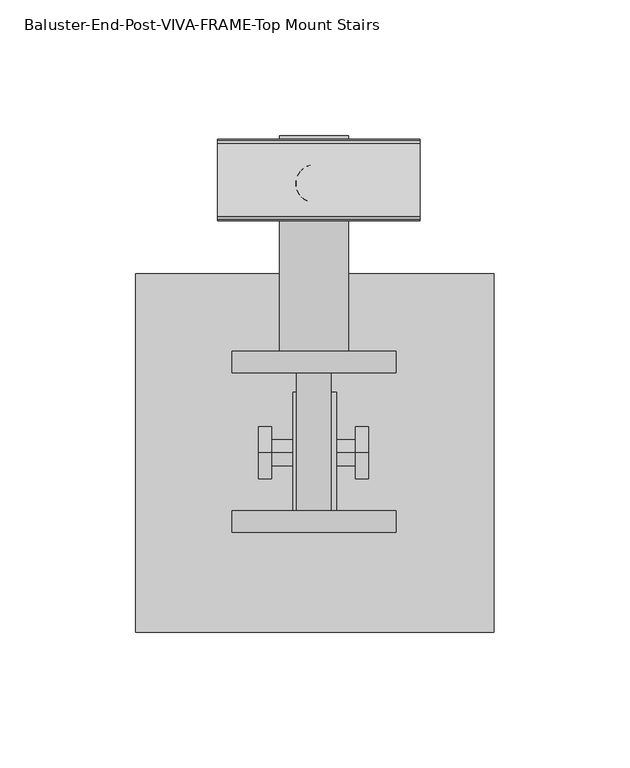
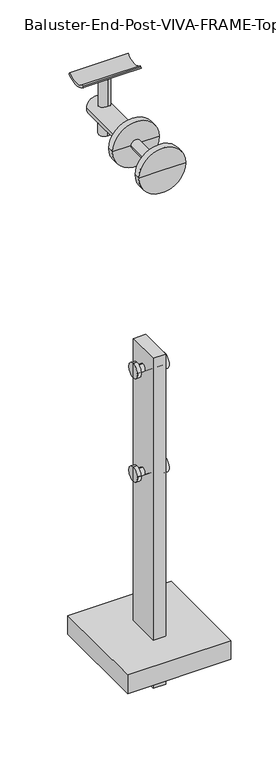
"""IFC4 building model written with IfcOpenShell, lengths in millimetres: proxy geometry, Baluster-End-Post-VIVA-FRAME-Top Mount Stairs : ANCHORED TO CONCRETE_TOP MOUNT FRAME_STAIR."""

from ifc_helpers import new_model, si_unit, point, frame, frame_2d, origin, place, context, project, spatial, polyline, circle_curve, trimmed, segment, composite_curve, outline, extrude, source, transform, mapped, element, save
from ifc_brep_helpers import plane_surface, cylinder_surface, advanced_brep


def baluster_end_post_viva_frame_top_mount_stairs_2918d103(model_context):
    return source(origin(), model_context, "Body", "SolidModel", [
        advanced_brep(
        [(-30.4813346, -121.9403, -73.6790445), (-6.6688346, -121.9403, -73.6790445), (6.0311654, -121.9403, -73.6790445), (29.8436654, -121.9403, -73.6790445), (-30.4813346, -129.8778, -73.6790445), (29.8436654, -129.8778, -73.6790445), (-30.4813346, -63.2028, -73.6790445), (-13.0188346, -63.2028, -73.6790445), (12.3811654, -63.2028, -73.6790445), (29.8436654, -63.2028, -73.6790445), (-30.4813346, -71.1403, -73.6790445), (29.8436654, -71.1403, -73.6790445), (-0.3188346, -129.8778, -73.6790445), (-13.0188346, 16.1722, -73.6790445), (-0.3188346, 16.1722, -73.6790445), (12.3811654, 16.1722, -73.6790445), (-6.6688346, -71.1403, -73.6790445), (6.0311654, -71.1403, -73.6790445)],
        [
            (0, 1),
            (1, 2, circle_curve(frame((-0.3188346, -121.9403, -73.6790445), z_axis=(0.0, -1.0, 0.0), x_axis=(1.0, 0.0, 0.0)), 6.35)),
            (2, 3),
            (3, 0, circle_curve(frame((-0.3188346, -121.9403, -73.6790445), z_axis=(0.0, 1.0, 0.0), x_axis=(1.0, 0.0, 0.0)), 30.1625)),
            (4, 0),
            (3, 5),
            (5, 4, circle_curve(frame((-0.3188346, -129.8778, -73.6790445), z_axis=(0.0, 1.0, 0.0), x_axis=(1.0, 0.0, 0.0)), 30.1625)),
            (6, 7),
            (7, 8, circle_curve(frame((-0.3188346, -63.2028, -73.6790445), z_axis=(0.0, -1.0, 0.0), x_axis=(1.0, 0.0, 0.0)), 12.7)),
            (8, 9),
            (9, 6, circle_curve(frame((-0.3188346, -63.2028, -73.6790445), z_axis=(0.0, 1.0, 0.0), x_axis=(1.0, 0.0, 0.0)), 30.1625)),
            (10, 6),
            (9, 11),
            (11, 10, circle_curve(frame((-0.3188346, -71.1403, -73.6790445), z_axis=(0.0, 1.0, 0.0), x_axis=(1.0, 0.0, 0.0)), 30.1625)),
            (3, 0, circle_curve(frame((-0.3188346, -121.9403, -73.6790445), z_axis=(0.0, -1.0, 0.0), x_axis=(1.0, 0.0, 0.0)), 30.1625)),
            (4, 5, circle_curve(frame((-0.3188346, -129.8778, -73.6790445), z_axis=(0.0, 1.0, 0.0), x_axis=(1.0, 0.0, 0.0)), 30.1625)),
            (12, 4),
            (5, 12),
            (13, 14),
            (14, 15),
            (15, 13, circle_curve(frame((-0.3188346, 16.1722, -73.6790445), z_axis=(0.0, 1.0, 0.0), x_axis=(1.0, 0.0, 0.0)), 12.7)),
            (13, 15, circle_curve(frame((-0.3188346, 16.1722, -73.6790445), z_axis=(0.0, 1.0, 0.0), x_axis=(1.0, 0.0, 0.0)), 12.7)),
            (7, 13),
            (15, 8),
            (7, 8, circle_curve(frame((-0.3188346, -63.2028, -73.6790445), z_axis=(0.0, 1.0, 0.0), x_axis=(1.0, 0.0, 0.0)), 12.7)),
            (6, 9, circle_curve(frame((-0.3188346, -63.2028, -73.6790445), z_axis=(0.0, 1.0, 0.0), x_axis=(1.0, 0.0, 0.0)), 30.1625)),
            (10, 11, circle_curve(frame((-0.3188346, -71.1403, -73.6790445), z_axis=(0.0, 1.0, 0.0), x_axis=(1.0, 0.0, 0.0)), 30.1625)),
            (16, 10),
            (11, 17),
            (17, 16, circle_curve(frame((-0.3188346, -71.1403, -73.6790445), z_axis=(0.0, 1.0, 0.0), x_axis=(1.0, 0.0, 0.0)), 6.35)),
            (16, 17, circle_curve(frame((-0.3188346, -71.1403, -73.6790445), z_axis=(0.0, 1.0, 0.0), x_axis=(1.0, 0.0, 0.0)), 6.35)),
            (1, 16),
            (17, 2),
            (1, 2, circle_curve(frame((-0.3188346, -121.9403, -73.6790445), z_axis=(0.0, 1.0, 0.0), x_axis=(1.0, 0.0, 0.0)), 6.35)),
        ],
        [
            plane_surface(frame((-0.3188346, -121.9403, -73.6790445), z_axis=(0.0, 1.0, 0.0), x_axis=(1.0, 0.0, 0.0))),
            cylinder_surface(frame((-0.3188346, -1595.1403, -73.6790445), z_axis=(0.0, -1.0, 0.0), x_axis=(1.0, 0.0, 0.0)), 30.1625),
            plane_surface(frame((-0.3188346, -63.2028, -73.6790445), z_axis=(0.0, 1.0, 0.0), x_axis=(1.0, 0.0, 0.0))),
            plane_surface(frame((-0.3188346, -129.8778, -73.6790445), z_axis=(0.0, -1.0, 0.0), x_axis=(1.0, 0.0, 0.0))),
            plane_surface(frame((-0.3188346, 16.1722, -73.6790445), z_axis=(0.0, 1.0, 0.0), x_axis=(1.0, 0.0, 0.0))),
            cylinder_surface(frame((-0.3188346, -1595.1403, -73.6790445), z_axis=(0.0, -1.0, 0.0), x_axis=(1.0, 0.0, 0.0)), 12.7),
            plane_surface(frame((-0.3188346, -71.1403, -73.6790445), z_axis=(0.0, -1.0, 0.0), x_axis=(1.0, 0.0, 0.0))),
            cylinder_surface(frame((-0.3188346, -1595.1403, -73.6790445), z_axis=(0.0, -1.0, 0.0), x_axis=(1.0, 0.0, 0.0)), 6.35),
        ],
        [
            (0, [[1, 2, 3, 4]]),
            (1, [[5, -4, 6, 7]]),
            (2, [[8, 9, 10, 11]]),
            (1, [[12, -11, 13, 14]]),
            (1, [[-6, 15, -5, 16]]),
            (3, [[17, -7, 18]]),
            (3, [[-18, -16, -17]]),
            (4, [[19, 20, 21]]),
            (4, [[-20, -19, 22]]),
            (5, [[23, -21, 24, -9]]),
            (5, [[-24, -22, -23, 25]]),
            (2, [[-10, -25, -8, 26]]),
            (1, [[-13, -26, -12, 27]]),
            (6, [[28, -14, 29, 30]]),
            (6, [[-29, -27, -28, 31]]),
            (7, [[32, -30, 33, -2]]),
            (7, [[-33, -31, -32, 34]]),
            (0, [[-3, -34, -1, -15]]),
        ],
    ),
        extrude(outline(composite_curve([segment(trimmed(circle_curve(frame_2d((0.0, 7.0)), 7.0), [point((0.0, 14.0))], [point((0.0, 0.0))], False, "CARTESIAN"), True, "CONTINUOUS"), segment(trimmed(circle_curve(frame_2d((0.0, 7.0)), 7.0), [point((0.0, 0.0))], [point((0.0, 14.0))], False, "CARTESIAN"), True, "CONTINUOUS")], self_intersect=False)), frame((-0.4484997, -8.4254391, -100.6444351), z_axis=(0.0059036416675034, 0.0, 0.9999825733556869), x_axis=(0.9999825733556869, 0.0, -0.0059036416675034)), (0.0, 0.0, 1.0), 75.97),
        extrude(outline(composite_curve([segment(polyline([(5.2466063, -13.9247916), (4.2292193, -14.9511812)]), True, "CONTINUOUS"), segment(trimmed(circle_curve(frame_2d((3.1638974, -13.8952033)), 1.5), [point((4.2292193, -14.9511812))], [point((2.0329756, -14.8806048))], False, "CARTESIAN"), True, "CONTINUOUS"), segment(trimmed(circle_curve(frame_2d((18.6575251, -0.3952033)), 22.05), [point((2.0329756, -14.8806048))], [point((2.0329756, 14.0901981))], False, "CARTESIAN"), True, "CONTINUOUS"), segment(trimmed(circle_curve(frame_2d((3.1638974, 13.1047967)), 1.5), [point((2.0329756, 14.0901981))], [point((4.2292193, 14.1607745))], False, "CARTESIAN"), True, "CONTINUOUS"), segment(polyline([(4.2292193, 14.1607745), (5.2466063, 13.1343849)]), True, "CONTINUOUS"), segment(trimmed(circle_curve(frame_2d((18.6575251, -0.3952033)), 19.05), [point((5.2466063, 13.1343849))], [point((5.2466063, -13.9247916))], True, "CARTESIAN"), True, "CONTINUOUS")], self_intersect=False)), frame((38.6744355, 0.3017933, -21.2832848), z_axis=(-0.9999997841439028, 0.0, 0.0006570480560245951), x_axis=(0.0006570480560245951, 0.0, 0.9999997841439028)), (0.0, 0.0, 1.0), 74.5229187),
        extrude(outline(polyline([(7.9375, -78.2802567), (7.9375, -122.7302567), (-7.9375, -122.7302567), (-7.9375, -78.2802567), (7.9375, -78.2802567)])), frame((0.0, 0.0, -775.8093072), z_axis=(0.0, 0.0, 1.0), x_axis=(1.0, 0.0, 0.0)), (0.0, 0.0, 1.0), 446.1236627),
        advanced_brep(
        [(-20.6502, -100.5078, -504.8504), (-20.6502, -100.5078, -485.7496), (-20.6502, -100.5078, -495.3), (-15.875, -100.5078, -504.8504), (-15.875, -100.5078, -485.7496), (-15.875, -100.5078, -500.0752), (-15.875, -100.5078, -490.5248), (15.0622, -100.5078, -500.0752), (15.0622, -100.5078, -490.5248), (15.0622, -100.5078, -504.8504), (15.0622, -100.5078, -485.7496), (19.8374, -100.5078, -504.8504), (19.8374, -100.5078, -485.7496), (19.8374, -100.5078, -495.3)],
        [
            (0, 1, circle_curve(frame((-20.6502, -100.5078, -495.3), z_axis=(-1.0, 0.0, 0.0), x_axis=(0.0, 0.0, 1.0)), 9.5504)),
            (1, 2),
            (2, 0),
            (1, 0, circle_curve(frame((-20.6502, -100.5078, -495.3), z_axis=(-1.0, 0.0, 0.0), x_axis=(0.0, 0.0, 1.0)), 9.5504)),
            (3, 4, circle_curve(frame((-15.875, -100.5078, -495.3), z_axis=(-1.0, 0.0, 0.0), x_axis=(0.0, 0.0, 1.0)), 9.5504)),
            (4, 1),
            (0, 3),
            (4, 3, circle_curve(frame((-15.875, -100.5078, -495.3), z_axis=(-1.0, 0.0, 0.0), x_axis=(0.0, 0.0, 1.0)), 9.5504)),
            (5, 6, circle_curve(frame((-15.875, -100.5078, -495.3), z_axis=(-1.0, 0.0, 0.0), x_axis=(0.0, 0.0, 1.0)), 4.7752)),
            (6, 4),
            (3, 5),
            (6, 5, circle_curve(frame((-15.875, -100.5078, -495.3), z_axis=(-1.0, 0.0, 0.0), x_axis=(0.0, 0.0, 1.0)), 4.7752)),
            (7, 8, circle_curve(frame((15.0622, -100.5078, -495.3), z_axis=(-1.0, 0.0, 0.0), x_axis=(0.0, 0.0, 1.0)), 4.7752)),
            (8, 6),
            (5, 7),
            (8, 7, circle_curve(frame((15.0622, -100.5078, -495.3), z_axis=(-1.0, 0.0, 0.0), x_axis=(0.0, 0.0, 1.0)), 4.7752)),
            (9, 10, circle_curve(frame((15.0622, -100.5078, -495.3), z_axis=(-1.0, 0.0, 0.0), x_axis=(0.0, 0.0, 1.0)), 9.5504)),
            (10, 8),
            (7, 9),
            (10, 9, circle_curve(frame((15.0622, -100.5078, -495.3), z_axis=(-1.0, 0.0, 0.0), x_axis=(0.0, 0.0, 1.0)), 9.5504)),
            (11, 12, circle_curve(frame((19.8374, -100.5078, -495.3), z_axis=(-1.0, 0.0, 0.0), x_axis=(0.0, 0.0, 1.0)), 9.5504)),
            (12, 10),
            (9, 11),
            (12, 11, circle_curve(frame((19.8374, -100.5078, -495.3), z_axis=(-1.0, 0.0, 0.0), x_axis=(0.0, 0.0, 1.0)), 9.5504)),
            (13, 12),
            (11, 13),
        ],
        [
            plane_surface(frame((-20.6502, -100.5078, -495.3), z_axis=(-1.0, 0.0, 0.0), x_axis=(0.0, 0.0, 1.0))),
            cylinder_surface(frame((-3412.2305571, -100.5078, -495.3), z_axis=(1.0, 0.0, 0.0), x_axis=(0.0, 0.0, 1.0)), 9.5504),
            plane_surface(frame((-15.875, -100.5078, -495.3), z_axis=(1.0, 0.0, 0.0), x_axis=(0.0, 0.0, 1.0))),
            cylinder_surface(frame((-3412.2305571, -100.5078, -495.3), z_axis=(1.0, 0.0, 0.0), x_axis=(0.0, 0.0, 1.0)), 4.7752),
            plane_surface(frame((15.0622, -100.5078, -495.3), z_axis=(-1.0, 0.0, 0.0), x_axis=(0.0, 0.0, 1.0))),
            plane_surface(frame((19.8374, -100.5078, -495.3), z_axis=(1.0, 0.0, 0.0), x_axis=(0.0, 0.0, 1.0))),
        ],
        [
            (0, [[1, 2, 3]]),
            (0, [[4, -3, -2]]),
            (1, [[5, 6, -1, 7]]),
            (1, [[8, -7, -4, -6]]),
            (2, [[9, 10, -5, 11]]),
            (2, [[12, -11, -8, -10]]),
            (3, [[13, 14, -9, 15]]),
            (3, [[16, -15, -12, -14]]),
            (4, [[17, 18, -13, 19]]),
            (4, [[20, -19, -16, -18]]),
            (1, [[21, 22, -17, 23]]),
            (1, [[24, -23, -20, -22]]),
            (5, [[25, -21, 26]]),
            (5, [[-26, -24, -25]]),
        ],
    ),
        advanced_brep(
        [(-20.6502, -100.5078, -364.6360445), (-20.6502, -100.5078, -345.5352445), (-20.6502, -100.5078, -355.0856445), (-15.875, -100.5078, -364.6360445), (-15.875, -100.5078, -345.5352445), (-15.875, -100.5078, -359.8608445), (-15.875, -100.5078, -350.3104445), (15.0622, -100.5078, -359.8608445), (15.0622, -100.5078, -350.3104445), (15.0622, -100.5078, -364.6360445), (15.0622, -100.5078, -345.5352445), (19.8374, -100.5078, -364.6360445), (19.8374, -100.5078, -345.5352445), (19.8374, -100.5078, -355.0856445)],
        [
            (0, 1, circle_curve(frame((-20.6502, -100.5078, -355.0856445), z_axis=(-1.0, 0.0, 0.0), x_axis=(0.0, 0.0, 1.0)), 9.5504)),
            (1, 2),
            (2, 0),
            (1, 0, circle_curve(frame((-20.6502, -100.5078, -355.0856445), z_axis=(-1.0, 0.0, 0.0), x_axis=(0.0, 0.0, 1.0)), 9.5504)),
            (3, 4, circle_curve(frame((-15.875, -100.5078, -355.0856445), z_axis=(-1.0, 0.0, 0.0), x_axis=(0.0, 0.0, 1.0)), 9.5504)),
            (4, 1),
            (0, 3),
            (4, 3, circle_curve(frame((-15.875, -100.5078, -355.0856445), z_axis=(-1.0, 0.0, 0.0), x_axis=(0.0, 0.0, 1.0)), 9.5504)),
            (5, 6, circle_curve(frame((-15.875, -100.5078, -355.0856445), z_axis=(-1.0, 0.0, 0.0), x_axis=(0.0, 0.0, 1.0)), 4.7752)),
            (6, 4),
            (3, 5),
            (6, 5, circle_curve(frame((-15.875, -100.5078, -355.0856445), z_axis=(-1.0, 0.0, 0.0), x_axis=(0.0, 0.0, 1.0)), 4.7752)),
            (7, 8, circle_curve(frame((15.0622, -100.5078, -355.0856445), z_axis=(-1.0, 0.0, 0.0), x_axis=(0.0, 0.0, 1.0)), 4.7752)),
            (8, 6),
            (5, 7),
            (8, 7, circle_curve(frame((15.0622, -100.5078, -355.0856445), z_axis=(-1.0, 0.0, 0.0), x_axis=(0.0, 0.0, 1.0)), 4.7752)),
            (9, 10, circle_curve(frame((15.0622, -100.5078, -355.0856445), z_axis=(-1.0, 0.0, 0.0), x_axis=(0.0, 0.0, 1.0)), 9.5504)),
            (10, 8),
            (7, 9),
            (10, 9, circle_curve(frame((15.0622, -100.5078, -355.0856445), z_axis=(-1.0, 0.0, 0.0), x_axis=(0.0, 0.0, 1.0)), 9.5504)),
            (11, 12, circle_curve(frame((19.8374, -100.5078, -355.0856445), z_axis=(-1.0, 0.0, 0.0), x_axis=(0.0, 0.0, 1.0)), 9.5504)),
            (12, 10),
            (9, 11),
            (12, 11, circle_curve(frame((19.8374, -100.5078, -355.0856445), z_axis=(-1.0, 0.0, 0.0), x_axis=(0.0, 0.0, 1.0)), 9.5504)),
            (13, 12),
            (11, 13),
        ],
        [
            plane_surface(frame((-20.6502, -100.5078, -355.0856445), z_axis=(-1.0, 0.0, 0.0), x_axis=(0.0, 0.0, 1.0))),
            cylinder_surface(frame((-3412.2305571, -100.5078, -355.0856445), z_axis=(1.0, 0.0, 0.0), x_axis=(0.0, 0.0, 1.0)), 9.5504),
            plane_surface(frame((-15.875, -100.5078, -355.0856445), z_axis=(1.0, 0.0, 0.0), x_axis=(0.0, 0.0, 1.0))),
            cylinder_surface(frame((-3412.2305571, -100.5078, -355.0856445), z_axis=(1.0, 0.0, 0.0), x_axis=(0.0, 0.0, 1.0)), 4.7752),
            plane_surface(frame((15.0622, -100.5078, -355.0856445), z_axis=(-1.0, 0.0, 0.0), x_axis=(0.0, 0.0, 1.0))),
            plane_surface(frame((19.8374, -100.5078, -355.0856445), z_axis=(1.0, 0.0, 0.0), x_axis=(0.0, 0.0, 1.0))),
        ],
        [
            (0, [[1, 2, 3]]),
            (0, [[4, -3, -2]]),
            (1, [[5, 6, -1, 7]]),
            (1, [[8, -7, -4, -6]]),
            (2, [[9, 10, -5, 11]]),
            (2, [[12, -11, -8, -10]]),
            (3, [[13, 14, -9, 15]]),
            (3, [[16, -15, -12, -14]]),
            (4, [[17, 18, -13, 19]]),
            (4, [[20, -19, -16, -18]]),
            (1, [[21, 22, -17, 23]]),
            (1, [[24, -23, -20, -22]]),
            (5, [[25, -21, 26]]),
            (5, [[-26, -24, -25]]),
        ],
    ),
        extrude(outline(polyline([(-66.0, -34.5052567), (66.0, -34.5052567), (66.0, -166.5052567), (-66.0, -166.5052567), (-66.0, -34.5052567)])), frame((0.0, 0.0, -736.0856445), z_axis=(0.0, 0.0, 1.0), x_axis=(1.0, 0.0, 0.0)), (0.0, 0.0, 1.0), 25.4),
    ])


if __name__ == "__main__":
    model = new_model("IFC4")
    model_context = context("Model", 3, world=origin())
    ifc_project = project(units=[si_unit("LENGTHUNIT", "METRE", prefix="MILLI")], contexts=[model_context])
    site = spatial("IfcSite", under=ifc_project)
    building = spatial("IfcBuilding", under=site)
    placement = place(None, origin())
    baluster_end_post_viva_frame_top_mount_stairs_shape = baluster_end_post_viva_frame_top_mount_stairs_2918d103(model_context)
    element("IfcBuildingElementProxy", 1, Name="Baluster-End-Post-VIVA-FRAME-Top Mount Stairs : ANCHORED TO CONCRETE_TOP MOUNT FRAME_STAIR", ObjectType="Baluster-End-Post-VIVA-FRAME-Top Mount Stairs : ANCHORED TO CONCRETE_TOP MOUNT FRAME_STAIR", at=placement, inside=building, context=model_context, shape_type="MappedRepresentation", body=[
        mapped(baluster_end_post_viva_frame_top_mount_stairs_shape, transform((0.0, 0.0, 0.0), x_axis=(1.0, 0.0, 0.0), y_axis=(0.0, 1.0, 0.0), z_axis=(0.0, 0.0, 1.0))),
    ])
    save(model, "model.ifc")
